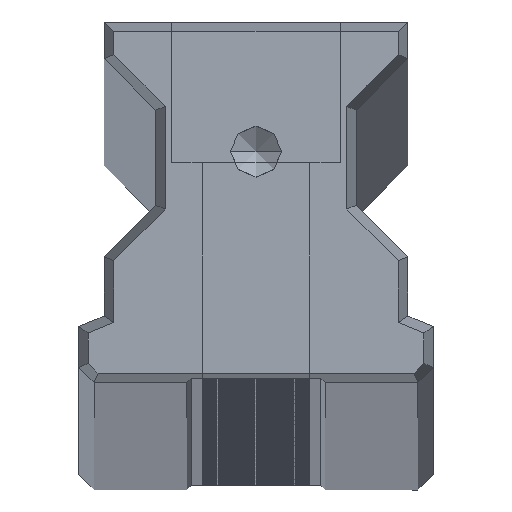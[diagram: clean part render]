
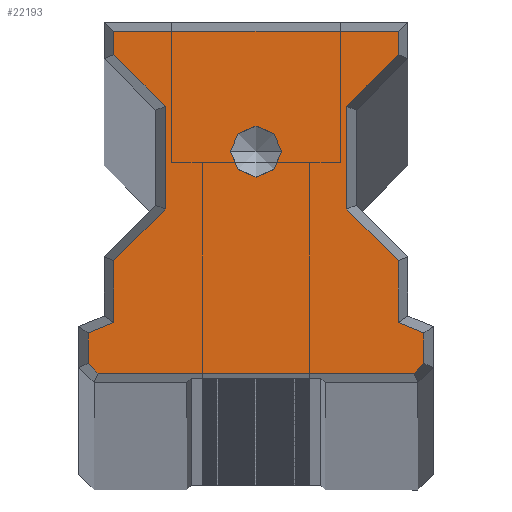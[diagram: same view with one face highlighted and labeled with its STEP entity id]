
A CAD part, top view. The second image highlights one B-rep face of the part: STEP entity #22193.
In plain terms, the highlighted planar face has unit normal (0, 0, 1).
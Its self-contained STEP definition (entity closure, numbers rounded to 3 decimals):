
#8095=CARTESIAN_POINT('',(0.,15.,0.));
#8096=DIRECTION('',(0.,0.,1.));
#8097=DIRECTION('',(-1.,0.,0.));
#8098=AXIS2_PLACEMENT_3D('',#8095,#8096,#8097);
#8100=CARTESIAN_POINT('',(0.,15.,0.));
#8101=DIRECTION('',(0.,0.,1.));
#8102=DIRECTION('',(1.,0.,0.));
#8103=AXIS2_PLACEMENT_3D('',#8100,#8101,#8102);
#8105=DIRECTION('',(1.,0.,0.));
#8106=VECTOR('',#8105,20.489);
#8107=CARTESIAN_POINT('',(-10.244,0.617,0.));
#8108=LINE('',#8107,#8106);
#8109=DIRECTION('',(0.707,-0.707,0.));
#8110=VECTOR('',#8109,0.903);
#8111=CARTESIAN_POINT('',(-10.883,1.256,0.));
#8112=LINE('',#8111,#8110);
#8113=DIRECTION('',(0.,-1.,0.));
#8114=VECTOR('',#8113,1.981);
#8115=CARTESIAN_POINT('',(-10.883,3.237,0.));
#8116=LINE('',#8115,#8114);
#8117=DIRECTION('',(0.925,0.381,0.));
#8118=VECTOR('',#8117,1.784);
#8119=CARTESIAN_POINT('',(-10.883,3.237,0.));
#8120=LINE('',#8119,#8118);
#8121=DIRECTION('',(0.,-1.,0.));
#8122=VECTOR('',#8121,4.003);
#8123=CARTESIAN_POINT('',(-9.233,7.919,0.));
#8124=LINE('',#8123,#8122);
#8125=DIRECTION('',(-0.707,-0.707,0.));
#8126=VECTOR('',#8125,4.738);
#8127=CARTESIAN_POINT('',(-5.883,11.269,0.));
#8128=LINE('',#8127,#8126);
#8129=DIRECTION('',(0.,-1.,0.));
#8130=VECTOR('',#8129,6.661);
#8131=CARTESIAN_POINT('',(-5.883,17.931,0.));
#8132=LINE('',#8131,#8130);
#8133=DIRECTION('',(0.707,-0.707,0.));
#8134=VECTOR('',#8133,4.738);
#8135=CARTESIAN_POINT('',(-9.233,21.281,0.));
#8136=LINE('',#8135,#8134);
#8137=DIRECTION('',(0.,-1.,0.));
#8138=VECTOR('',#8137,1.502);
#8139=CARTESIAN_POINT('',(-9.233,22.783,0.));
#8140=LINE('',#8139,#8138);
#8141=DIRECTION('',(-1.,0.,0.));
#8142=VECTOR('',#8141,18.466);
#8143=CARTESIAN_POINT('',(9.233,22.783,0.));
#8144=LINE('',#8143,#8142);
#8145=DIRECTION('',(0.,1.,0.));
#8146=VECTOR('',#8145,1.502);
#8147=CARTESIAN_POINT('',(9.233,21.281,0.));
#8148=LINE('',#8147,#8146);
#8149=DIRECTION('',(-0.707,-0.707,0.));
#8150=VECTOR('',#8149,4.738);
#8151=CARTESIAN_POINT('',(9.233,21.281,0.));
#8152=LINE('',#8151,#8150);
#8153=DIRECTION('',(0.,1.,0.));
#8154=VECTOR('',#8153,6.661);
#8155=CARTESIAN_POINT('',(5.883,11.269,0.));
#8156=LINE('',#8155,#8154);
#8157=DIRECTION('',(-0.707,0.707,0.));
#8158=VECTOR('',#8157,4.738);
#8159=CARTESIAN_POINT('',(9.233,7.919,0.));
#8160=LINE('',#8159,#8158);
#8161=DIRECTION('',(0.,1.,0.));
#8162=VECTOR('',#8161,4.003);
#8163=CARTESIAN_POINT('',(9.233,3.916,0.));
#8164=LINE('',#8163,#8162);
#8165=DIRECTION('',(-0.925,0.381,0.));
#8166=VECTOR('',#8165,1.784);
#8167=CARTESIAN_POINT('',(10.883,3.237,0.));
#8168=LINE('',#8167,#8166);
#8169=DIRECTION('',(0.,1.,0.));
#8170=VECTOR('',#8169,1.981);
#8171=CARTESIAN_POINT('',(10.883,1.256,0.));
#8172=LINE('',#8171,#8170);
#8173=DIRECTION('',(0.707,0.707,0.));
#8174=VECTOR('',#8173,0.903);
#8175=CARTESIAN_POINT('',(10.244,0.617,0.));
#8176=LINE('',#8175,#8174);
#8522=CARTESIAN_POINT('',(-1.65,15.,0.));
#8523=VERTEX_POINT('',#8522);
#8524=CARTESIAN_POINT('',(1.65,15.,0.));
#8525=VERTEX_POINT('',#8524);
#8728=CARTESIAN_POINT('',(-10.244,0.617,0.));
#8729=CARTESIAN_POINT('',(10.244,0.617,0.));
#8730=VERTEX_POINT('',#8728);
#8731=VERTEX_POINT('',#8729);
#8732=CARTESIAN_POINT('',(10.883,1.256,0.));
#8733=VERTEX_POINT('',#8732);
#8734=CARTESIAN_POINT('',(10.883,3.237,0.));
#8735=VERTEX_POINT('',#8734);
#8736=CARTESIAN_POINT('',(9.233,3.916,0.));
#8737=VERTEX_POINT('',#8736);
#8738=CARTESIAN_POINT('',(9.233,7.919,0.));
#8739=VERTEX_POINT('',#8738);
#8740=CARTESIAN_POINT('',(5.883,11.269,0.));
#8741=VERTEX_POINT('',#8740);
#8742=CARTESIAN_POINT('',(5.883,17.931,0.));
#8743=VERTEX_POINT('',#8742);
#8744=CARTESIAN_POINT('',(9.233,21.281,0.));
#8745=VERTEX_POINT('',#8744);
#8746=CARTESIAN_POINT('',(9.233,22.783,0.));
#8747=VERTEX_POINT('',#8746);
#8748=CARTESIAN_POINT('',(-9.233,22.783,0.));
#8749=VERTEX_POINT('',#8748);
#8750=CARTESIAN_POINT('',(-9.233,21.281,0.));
#8751=VERTEX_POINT('',#8750);
#8752=CARTESIAN_POINT('',(-5.883,17.931,0.));
#8753=VERTEX_POINT('',#8752);
#8754=CARTESIAN_POINT('',(-5.883,11.269,0.));
#8755=VERTEX_POINT('',#8754);
#8756=CARTESIAN_POINT('',(-9.233,7.919,0.));
#8757=VERTEX_POINT('',#8756);
#8758=CARTESIAN_POINT('',(-9.233,3.916,0.));
#8759=VERTEX_POINT('',#8758);
#8760=CARTESIAN_POINT('',(-10.883,3.237,0.));
#8761=VERTEX_POINT('',#8760);
#10795=CARTESIAN_POINT('',(-10.883,1.256,0.));
#10796=VERTEX_POINT('',#10795);
#22145=CARTESIAN_POINT('',(0.,0.,0.));
#22146=DIRECTION('',(0.,0.,1.));
#22147=DIRECTION('',(1.,0.,0.));
#22148=AXIS2_PLACEMENT_3D('',#22145,#22146,#22147);
#22149=PLANE('',#22148);
#22151=ORIENTED_EDGE('',*,*,#22150,.F.);
#22153=ORIENTED_EDGE('',*,*,#22152,.F.);
#22155=ORIENTED_EDGE('',*,*,#22154,.F.);
#22157=ORIENTED_EDGE('',*,*,#22156,.T.);
#22159=ORIENTED_EDGE('',*,*,#22158,.F.);
#22161=ORIENTED_EDGE('',*,*,#22160,.F.);
#22163=ORIENTED_EDGE('',*,*,#22162,.F.);
#22165=ORIENTED_EDGE('',*,*,#22164,.F.);
#22166=ORIENTED_EDGE('',*,*,#22135,.F.);
#22168=ORIENTED_EDGE('',*,*,#22167,.F.);
#22170=ORIENTED_EDGE('',*,*,#22169,.F.);
#22172=ORIENTED_EDGE('',*,*,#22171,.T.);
#22174=ORIENTED_EDGE('',*,*,#22173,.F.);
#22176=ORIENTED_EDGE('',*,*,#22175,.F.);
#22178=ORIENTED_EDGE('',*,*,#22177,.F.);
#22180=ORIENTED_EDGE('',*,*,#22179,.F.);
#22182=ORIENTED_EDGE('',*,*,#22181,.F.);
#22184=ORIENTED_EDGE('',*,*,#22183,.F.);
#22185=EDGE_LOOP('',(#22151,#22153,#22155,#22157,#22159,#22161,#22163,#22165,
#22166,#22168,#22170,#22172,#22174,#22176,#22178,#22180,#22182,#22184));
#22186=FACE_OUTER_BOUND('',#22185,.F.);
#22188=ORIENTED_EDGE('',*,*,#22187,.T.);
#22190=ORIENTED_EDGE('',*,*,#22189,.T.);
#22191=EDGE_LOOP('',(#22188,#22190));
#22192=FACE_BOUND('',#22191,.F.);
#8099=CIRCLE('',#8098,1.65);
#8104=CIRCLE('',#8103,1.65);
#22135=EDGE_CURVE('',#8749,#8751,#8140,.T.);
#22150=EDGE_CURVE('',#8730,#8731,#8108,.T.);
#22152=EDGE_CURVE('',#10796,#8730,#8112,.T.);
#22154=EDGE_CURVE('',#8761,#10796,#8116,.T.);
#22156=EDGE_CURVE('',#8761,#8759,#8120,.T.);
#22158=EDGE_CURVE('',#8757,#8759,#8124,.T.);
#22160=EDGE_CURVE('',#8755,#8757,#8128,.T.);
#22162=EDGE_CURVE('',#8753,#8755,#8132,.T.);
#22164=EDGE_CURVE('',#8751,#8753,#8136,.T.);
#22167=EDGE_CURVE('',#8747,#8749,#8144,.T.);
#22169=EDGE_CURVE('',#8745,#8747,#8148,.T.);
#22171=EDGE_CURVE('',#8745,#8743,#8152,.T.);
#22173=EDGE_CURVE('',#8741,#8743,#8156,.T.);
#22175=EDGE_CURVE('',#8739,#8741,#8160,.T.);
#22177=EDGE_CURVE('',#8737,#8739,#8164,.T.);
#22179=EDGE_CURVE('',#8735,#8737,#8168,.T.);
#22181=EDGE_CURVE('',#8733,#8735,#8172,.T.);
#22183=EDGE_CURVE('',#8731,#8733,#8176,.T.);
#22187=EDGE_CURVE('',#8523,#8525,#8099,.T.);
#22189=EDGE_CURVE('',#8525,#8523,#8104,.T.);
#22193=ADVANCED_FACE('',(#22186,#22192),#22149,.T.);
